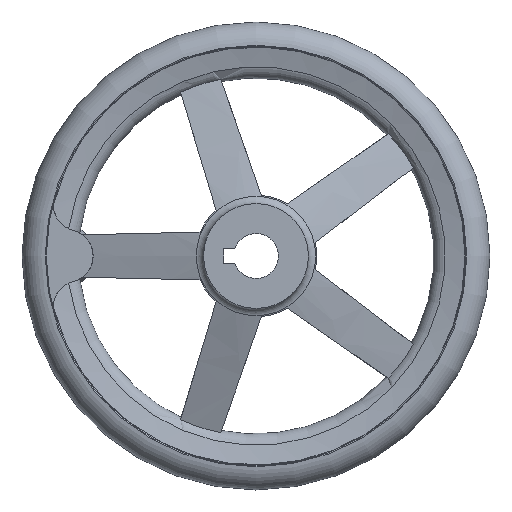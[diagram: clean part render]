
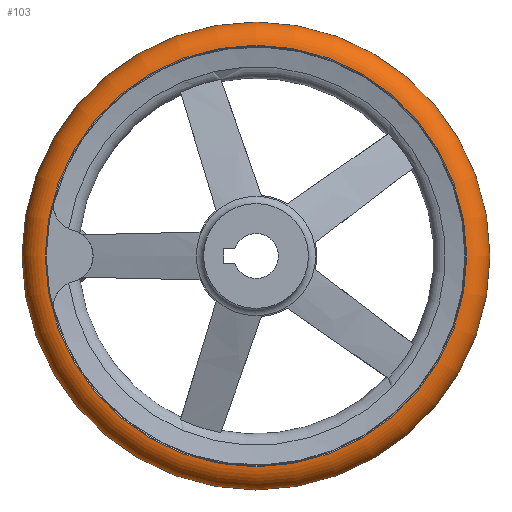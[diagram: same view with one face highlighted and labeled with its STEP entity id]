
A CAD part, left-side view. The second image highlights one B-rep face of the part: STEP entity #103.
In plain terms, the highlighted toroidal (fillet/blend) face has major radius 112 mm and minor radius 13 mm.
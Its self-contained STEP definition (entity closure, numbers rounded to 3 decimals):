
#103 = ADVANCED_FACE( '', ( #199, #200, #201 ), #202, .T. );
#199 = FACE_BOUND( '', #339, .T. );
#200 = FACE_OUTER_BOUND( '', #340, .T. );
#201 = FACE_OUTER_BOUND( '', #341, .T. );
#202 = TOROIDAL_SURFACE( '', #342, 112., 13. );
#339 = VERTEX_LOOP( '', #703 );
#340 = EDGE_LOOP( '', ( #704 ) );
#341 = EDGE_LOOP( '', ( #705 ) );
#342 = AXIS2_PLACEMENT_3D( '', #706, #707, #708 );
#703 = VERTEX_POINT( '', #995 );
#704 = ORIENTED_EDGE( '', *, *, #996, .T. );
#705 = ORIENTED_EDGE( '', *, *, #997, .F. );
#706 = CARTESIAN_POINT( '', ( 53., 0., 0. ) );
#707 = DIRECTION( '', ( 1., 0., 0. ) );
#708 = DIRECTION( '', ( 0., 1., 0. ) );
#995 = CARTESIAN_POINT( '', ( 53., 125., 0. ) );
#996 = EDGE_CURVE( '', #1215, #1215, #1216, .T. );
#997 = EDGE_CURVE( '', #1217, #1217, #1218, .T. );
#1215 = VERTEX_POINT( '', #1979 );
#1216 = CIRCLE( '', #1980, 112.542 );
#1217 = VERTEX_POINT( '', #1981 );
#1218 = CIRCLE( '', #1982, 112.542 );
#1979 = CARTESIAN_POINT( '', ( 40.011, 112.542, 0. ) );
#1980 = AXIS2_PLACEMENT_3D( '', #2209, #2210, #2211 );
#1981 = CARTESIAN_POINT( '', ( 65.989, 112.542, 0. ) );
#1982 = AXIS2_PLACEMENT_3D( '', #2212, #2213, #2214 );
#2209 = CARTESIAN_POINT( '', ( 40.011, 0., 0. ) );
#2210 = DIRECTION( '', ( 1., 0., 0. ) );
#2211 = DIRECTION( '', ( 0., 1., 0. ) );
#2212 = CARTESIAN_POINT( '', ( 65.989, 0., 0. ) );
#2213 = DIRECTION( '', ( 1., 0., 0. ) );
#2214 = DIRECTION( '', ( 0., 1., 0. ) );
